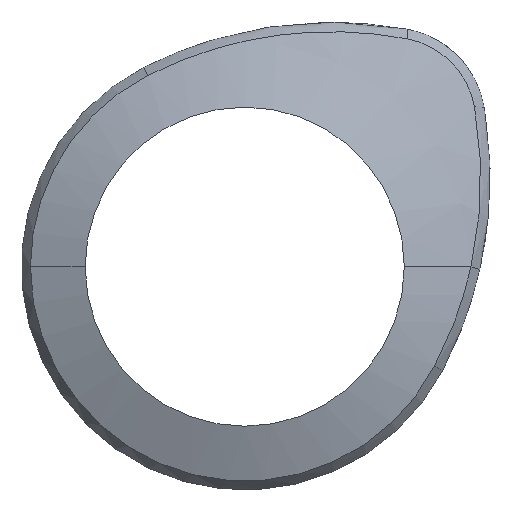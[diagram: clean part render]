
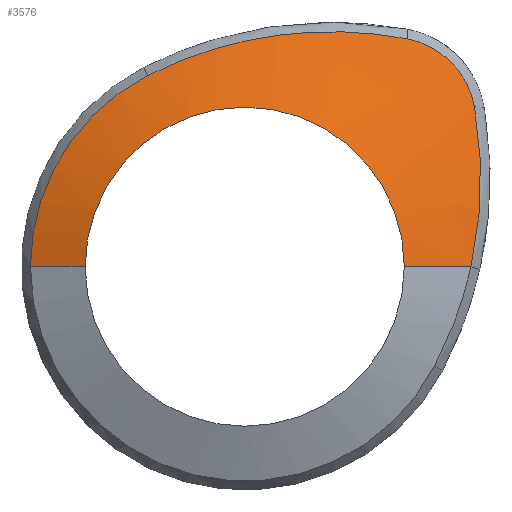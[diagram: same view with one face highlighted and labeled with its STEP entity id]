
A CAD part, front view. The second image highlights one B-rep face of the part: STEP entity #3576.
In plain terms, the highlighted conical face has half-angle 70.147 degrees and reference radius 70.54 mm.
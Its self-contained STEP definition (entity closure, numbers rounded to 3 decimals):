
#1527=CARTESIAN_POINT('',(72.002,7.642,50.058));
#1528=CARTESIAN_POINT('',(71.834,7.789,51.009));
#1529=CARTESIAN_POINT('',(71.39,8.057,52.902));
#1530=CARTESIAN_POINT('',(70.42,8.379,55.639));
#1531=CARTESIAN_POINT('',(69.157,8.622,58.253));
#1532=CARTESIAN_POINT('',(67.616,8.784,60.71));
#1533=CARTESIAN_POINT('',(65.816,8.866,62.982));
#1534=CARTESIAN_POINT('',(63.779,8.866,65.044));
#1535=CARTESIAN_POINT('',(61.528,8.784,66.871));
#1536=CARTESIAN_POINT('',(59.09,8.622,68.442));
#1537=CARTESIAN_POINT('',(56.492,8.379,69.737));
#1538=CARTESIAN_POINT('',(53.768,8.057,70.74));
#1539=CARTESIAN_POINT('',(51.88,7.789,71.207));
#1540=CARTESIAN_POINT('',(50.931,7.642,71.386));
#1542=CARTESIAN_POINT('',(70.894,1.577,
0.));
#1543=CARTESIAN_POINT('',(71.501,1.796,2.722));
#1544=CARTESIAN_POINT('',(72.535,2.282,8.195));
#1545=CARTESIAN_POINT('',(73.549,3.146,16.523));
#1546=CARTESIAN_POINT('',(74.014,4.129,24.916));
#1547=CARTESIAN_POINT('',(73.926,5.214,33.331));
#1548=CARTESIAN_POINT('',(73.285,6.387,41.73));
#1549=CARTESIAN_POINT('',(72.49,7.218,47.295));
#1550=CARTESIAN_POINT('',(72.002,7.642,50.058));
#1552=DIRECTION('',(0.941,0.34,0.));
#1553=VECTOR('',#1552,22.214);
#1554=CARTESIAN_POINT('',(50.,-5.968,0.));
#1555=LINE('',#1554,#1553);
#1556=CARTESIAN_POINT('',(0.,-5.968,0.));
#1557=DIRECTION('',(0.,-1.,0.));
#1558=DIRECTION('',(1.,0.,0.));
#1559=AXIS2_PLACEMENT_3D('',#1556,#1557,#1558);
#1561=DIRECTION('',(-0.941,0.34,0.));
#1562=VECTOR('',#1561,18.245);
#1563=CARTESIAN_POINT('',(-50.,-5.968,0.));
#1564=LINE('',#1563,#1562);
#1565=CARTESIAN_POINT('',(0.,0.229,0.));
#1566=DIRECTION('',(0.,-1.,0.));
#1567=DIRECTION('',(-0.452,0.,0.892));
#1568=AXIS2_PLACEMENT_3D('',#1565,#1566,#1567);
#1570=CARTESIAN_POINT('',(50.931,7.642,71.386));
#1571=CARTESIAN_POINT('',(47.859,7.169,71.968));
#1572=CARTESIAN_POINT('',(41.662,6.245,72.907));
#1573=CARTESIAN_POINT('',(32.305,4.954,73.629));
#1574=CARTESIAN_POINT('',(22.928,3.775,73.665));
#1575=CARTESIAN_POINT('',(13.587,2.73,73.015));
#1576=CARTESIAN_POINT('',(4.353,1.842,71.687));
#1577=CARTESIAN_POINT('',(-4.726,1.13,69.695));
#1578=CARTESIAN_POINT('',(-13.538,0.615,
67.077));
#1579=CARTESIAN_POINT('',(-22.087,0.3,
63.852));
#1580=CARTESIAN_POINT('',(-27.654,0.229,
61.279));
#1581=CARTESIAN_POINT('',(-30.381,0.229,
59.896));
#1599=CARTESIAN_POINT('',(70.894,1.577,
0.));
#1658=CARTESIAN_POINT('',(50.,-5.968,0.));
#1660=VERTEX_POINT('',#1658);
#1662=CARTESIAN_POINT('',(-50.,-5.968,0.));
#1664=VERTEX_POINT('',#1662);
#1777=VERTEX_POINT('',#1527);
#1778=VERTEX_POINT('',#1540);
#1779=VERTEX_POINT('',#1581);
#1781=CARTESIAN_POINT('',(-67.16,0.229,0.));
#1782=VERTEX_POINT('',#1781);
#1785=VERTEX_POINT('',#1599);
#3558=CARTESIAN_POINT('',(0.,1.449,0.));
#3559=DIRECTION('',(0.,1.,0.));
#3560=DIRECTION('',(1.,0.,0.));
#3561=AXIS2_PLACEMENT_3D('',#3558,#3559,#3560);
#3562=CONICAL_SURFACE('',#3561,70.54,70.147);
#3563=ORIENTED_EDGE('',*,*,#3497,.F.);
#3564=ORIENTED_EDGE('',*,*,#3549,.F.);
#3566=ORIENTED_EDGE('',*,*,#3565,.F.);
#3567=ORIENTED_EDGE('',*,*,#1826,.T.);
#3569=ORIENTED_EDGE('',*,*,#3568,.T.);
#3571=ORIENTED_EDGE('',*,*,#3570,.F.);
#3573=ORIENTED_EDGE('',*,*,#3572,.F.);
#3574=EDGE_LOOP('',(#3563,#3564,#3566,#3567,#3569,#3571,#3573));
#3575=FACE_OUTER_BOUND('',#3574,.F.);
#3576=ADVANCED_FACE('',(#3575),#3562,.T.);
#1541=B_SPLINE_CURVE_WITH_KNOTS('',3,(#1527,#1528,#1529,#1530,#1531,#1532,#1533,
#1534,#1535,#1536,#1537,#1538,#1539,#1540),.UNSPECIFIED.,.F.,.F.,(4,1,1,1,1,1,1,
1,1,1,1,4),(0.,0.091,0.182,0.273,
0.364,0.455,0.545,0.636,
0.727,0.818,0.909,1.),.UNSPECIFIED.);
#1551=B_SPLINE_CURVE_WITH_KNOTS('',3,(#1542,#1543,#1544,#1545,#1546,#1547,#1548,
#1549,#1550),.UNSPECIFIED.,.F.,.F.,(4,1,1,1,1,1,4),(0.,0.167,
0.333,0.5,0.667,0.833,1.),
.UNSPECIFIED.);
#1560=CIRCLE('',#1559,50.);
#1569=CIRCLE('',#1568,67.16);
#1582=B_SPLINE_CURVE_WITH_KNOTS('',3,(#1570,#1571,#1572,#1573,#1574,#1575,#1576,
#1577,#1578,#1579,#1580,#1581),.UNSPECIFIED.,.F.,.F.,(4,1,1,1,1,1,1,1,1,4),
(0.,0.111,0.222,0.333,0.444,
0.556,0.667,0.778,0.889,1.),
.UNSPECIFIED.);
#1826=EDGE_CURVE('',#1660,#1664,#1560,.T.);
#3497=EDGE_CURVE('',#1777,#1778,#1541,.T.);
#3549=EDGE_CURVE('',#1785,#1777,#1551,.T.);
#3565=EDGE_CURVE('',#1660,#1785,#1555,.T.);
#3568=EDGE_CURVE('',#1664,#1782,#1564,.T.);
#3570=EDGE_CURVE('',#1779,#1782,#1569,.T.);
#3572=EDGE_CURVE('',#1778,#1779,#1582,.T.);
